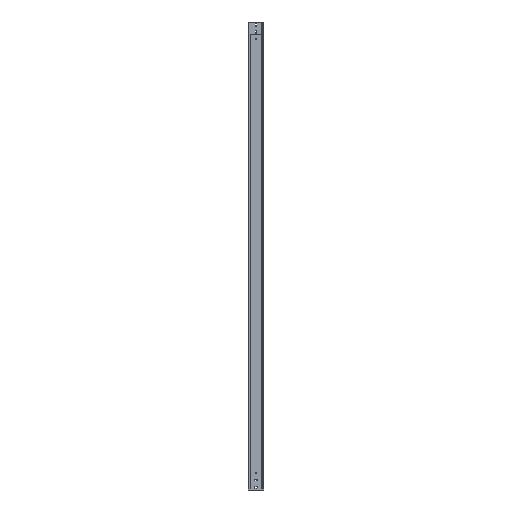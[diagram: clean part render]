
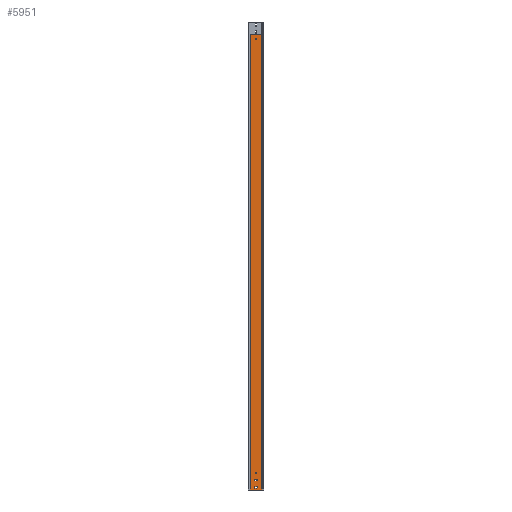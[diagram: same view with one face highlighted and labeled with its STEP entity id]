
A CAD part, left-side view. The second image highlights one B-rep face of the part: STEP entity #5951.
In plain terms, the highlighted planar face has unit normal (-1, 0, 0).
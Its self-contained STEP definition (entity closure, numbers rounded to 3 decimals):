
#49 = DIRECTION ( 'NONE',  ( 0., 0., -1. ) ) ;
#63 = CIRCLE ( 'NONE', #269, 4.5 ) ;
#77 = EDGE_CURVE ( 'NONE', #5470, #4235, #3440, .T. ) ;
#166 = CARTESIAN_POINT ( 'NONE',  ( 0., 42.5, 2852.5 ) ) ;
#198 = CIRCLE ( 'NONE', #1037, 4.5 ) ;
#212 = EDGE_CURVE ( 'NONE', #704, #6250, #63, .T. ) ;
#229 = DIRECTION ( 'NONE',  ( 0., 1., 0. ) ) ;
#232 = CARTESIAN_POINT ( 'NONE',  ( 0., 84.666, 0. ) ) ;
#234 = CARTESIAN_POINT ( 'NONE',  ( 0., 53.5, 2852.5 ) ) ;
#269 = AXIS2_PLACEMENT_3D ( 'NONE', #1083, #1545, #5002 ) ;
#271 = CARTESIAN_POINT ( 'NONE',  ( 0., 63.624, 0. ) ) ;
#364 = FACE_BOUND ( 'NONE', #2215, .T. ) ;
#418 = VECTOR ( 'NONE', #1915, 1000. ) ;
#445 = VERTEX_POINT ( 'NONE', #234 ) ;
#490 = CARTESIAN_POINT ( 'NONE',  ( 0., 42.5, 2857. ) ) ;
#502 = EDGE_CURVE ( 'NONE', #445, #4900, #2761, .T. ) ;
#510 = ORIENTED_EDGE ( 'NONE', *, *, #6026, .T. ) ;
#581 = ORIENTED_EDGE ( 'NONE', *, *, #5462, .F. ) ;
#586 = VECTOR ( 'NONE', #229, 1000. ) ;
#608 = CARTESIAN_POINT ( 'NONE',  ( 0., 42.5, 2861.5 ) ) ;
#620 = CARTESIAN_POINT ( 'NONE',  ( 0., 53.5, 2852.5 ) ) ;
#630 = ORIENTED_EDGE ( 'NONE', *, *, #77, .F. ) ;
#704 = VERTEX_POINT ( 'NONE', #1409 ) ;
#758 = FACE_BOUND ( 'NONE', #1331, .T. ) ;
#835 = CARTESIAN_POINT ( 'NONE',  ( 0., 42.582, 0. ) ) ;
#1037 = AXIS2_PLACEMENT_3D ( 'NONE', #1152, #2764, #6384 ) ;
#1076 = EDGE_CURVE ( 'NONE', #2183, #5057, #2885, .T. ) ;
#1083 = CARTESIAN_POINT ( 'NONE',  ( 0., 48., 2810. ) ) ;
#1152 = CARTESIAN_POINT ( 'NONE',  ( 0., 42.5, 2903. ) ) ;
#1275 = EDGE_LOOP ( 'NONE', ( #4785, #5664, #2341, #5275 ) ) ;
#1331 = EDGE_LOOP ( 'NONE', ( #3090, #5724 ) ) ;
#1347 = CARTESIAN_POINT ( 'NONE',  ( 0., 0.5, 0. ) ) ;
#1368 = ORIENTED_EDGE ( 'NONE', *, *, #4456, .F. ) ;
#1376 = CARTESIAN_POINT ( 'NONE',  ( 0., 53.5, 2903. ) ) ;
#1409 = CARTESIAN_POINT ( 'NONE',  ( 0., 48., 2814.5 ) ) ;
#1464 = DIRECTION ( 'NONE',  ( 0., 0., 1. ) ) ;
#1485 = CARTESIAN_POINT ( 'NONE',  ( 0., 42.5, 2898.5 ) ) ;
#1517 = CARTESIAN_POINT ( 'NONE',  ( 0., 53.5, 2861.5 ) ) ;
#1545 = DIRECTION ( 'NONE',  ( -1., 0., 0. ) ) ;
#1559 = VECTOR ( 'NONE', #4318, 1000. ) ;
#1642 = CARTESIAN_POINT ( 'NONE',  ( 0., 0.5, 2920. ) ) ;
#1697 = LINE ( 'NONE', #6265, #586 ) ;
#1817 = FACE_BOUND ( 'NONE', #2320, .T. ) ;
#1915 = DIRECTION ( 'NONE',  ( 0., -1., 0. ) ) ;
#1933 = VECTOR ( 'NONE', #49, 1000. ) ;
#1971 = CIRCLE ( 'NONE', #3245, 4.5 ) ;
#1999 = VERTEX_POINT ( 'NONE', #4427 ) ;
#2009 = DIRECTION ( 'NONE',  ( 0., 0., 1. ) ) ;
#2032 = LINE ( 'NONE', #4538, #2543 ) ;
#2113 = EDGE_CURVE ( 'NONE', #1999, #4995, #5337, .T. ) ;
#2115 = CIRCLE ( 'NONE', #6098, 4.5 ) ;
#2183 = VERTEX_POINT ( 'NONE', #4579 ) ;
#2215 = EDGE_LOOP ( 'NONE', ( #2739, #4475, #3355, #630 ) ) ;
#2320 = EDGE_LOOP ( 'NONE', ( #5931, #581 ) ) ;
#2335 = CARTESIAN_POINT ( 'NONE',  ( 0., 77.652, 0. ) ) ;
#2341 = ORIENTED_EDGE ( 'NONE', *, *, #4750, .F. ) ;
#2369 = DIRECTION ( 'NONE',  ( -1., 0., 0. ) ) ;
#2405 = CARTESIAN_POINT ( 'NONE',  ( 0., 53.5, 2898.5 ) ) ;
#2493 = B_SPLINE_CURVE_WITH_KNOTS ( 'NONE', 3,
 ( #1347, #5814, #6280, #835, #271, #2335, #4284 ),
 .UNSPECIFIED., .F., .F.,
 ( 4, 1, 1, 1, 4 ),
 ( 0., 0.25, 0.5, 0.75, 1. ),
 .UNSPECIFIED. ) ;
#2543 = VECTOR ( 'NONE', #6035, 1000. ) ;
#2568 = VERTEX_POINT ( 'NONE', #5602 ) ;
#2739 = ORIENTED_EDGE ( 'NONE', *, *, #5148, .F. ) ;
#2761 = LINE ( 'NONE', #620, #3850 ) ;
#2763 = CARTESIAN_POINT ( 'NONE',  ( 0., 53.5, 2907.5 ) ) ;
#2764 = DIRECTION ( 'NONE',  ( -1., 0., 0. ) ) ;
#2765 = FACE_BOUND ( 'NONE', #1275, .T. ) ;
#2795 = CIRCLE ( 'NONE', #4478, 4.5 ) ;
#2885 = CIRCLE ( 'NONE', #3101, 4.5 ) ;
#2931 = VERTEX_POINT ( 'NONE', #5227 ) ;
#2965 = EDGE_LOOP ( 'NONE', ( #4890, #1368, #510, #3913 ) ) ;
#3049 = CIRCLE ( 'NONE', #3259, 4.5 ) ;
#3090 = ORIENTED_EDGE ( 'NONE', *, *, #1076, .F. ) ;
#3101 = AXIS2_PLACEMENT_3D ( 'NONE', #5928, #4362, #6361 ) ;
#3245 = AXIS2_PLACEMENT_3D ( 'NONE', #3718, #6260, #5430 ) ;
#3259 = AXIS2_PLACEMENT_3D ( 'NONE', #5098, #4608, #4150 ) ;
#3268 = DIRECTION ( 'NONE',  ( 0., -1., 0. ) ) ;
#3324 = CARTESIAN_POINT ( 'NONE',  ( 0., 48., 34.5 ) ) ;
#3355 = ORIENTED_EDGE ( 'NONE', *, *, #4461, .F. ) ;
#3377 = CARTESIAN_POINT ( 'NONE',  ( 0., 53.5, 2898.5 ) ) ;
#3440 = LINE ( 'NONE', #2405, #418 ) ;
#3561 = VERTEX_POINT ( 'NONE', #2763 ) ;
#3631 = LINE ( 'NONE', #1642, #6499 ) ;
#3667 = DIRECTION ( 'NONE',  ( 0., 0., -1. ) ) ;
#3683 = CARTESIAN_POINT ( 'NONE',  ( 0., 0.5, 2920. ) ) ;
#3718 = CARTESIAN_POINT ( 'NONE',  ( 0., 48., 2810. ) ) ;
#3815 = EDGE_CURVE ( 'NONE', #5057, #2183, #2795, .T. ) ;
#3828 = DIRECTION ( 'NONE',  ( 0., 0., 1. ) ) ;
#3850 = VECTOR ( 'NONE', #3268, 1000. ) ;
#3913 = ORIENTED_EDGE ( 'NONE', *, *, #2113, .T. ) ;
#3920 = DIRECTION ( 'NONE',  ( 0., 0., -1. ) ) ;
#3977 = CARTESIAN_POINT ( 'NONE',  ( 0., 48., 30. ) ) ;
#3983 = DIRECTION ( 'NONE',  ( -1., 0., 0. ) ) ;
#4124 = VERTEX_POINT ( 'NONE', #1517 ) ;
#4150 = DIRECTION ( 'NONE',  ( 0., 0., -1. ) ) ;
#4235 = VERTEX_POINT ( 'NONE', #1485 ) ;
#4284 = CARTESIAN_POINT ( 'NONE',  ( 0., 84.666, 0. ) ) ;
#4303 = CARTESIAN_POINT ( 'NONE',  ( 0., 48., 2805.5 ) ) ;
#4318 = DIRECTION ( 'NONE',  ( 0., 1., 0. ) ) ;
#4362 = DIRECTION ( 'NONE',  ( -1., 0., 0. ) ) ;
#4427 = CARTESIAN_POINT ( 'NONE',  ( 0., 84.666, 2920. ) ) ;
#4456 = EDGE_CURVE ( 'NONE', #6441, #2931, #3631, .T. ) ;
#4461 = EDGE_CURVE ( 'NONE', #4235, #2568, #198, .T. ) ;
#4475 = ORIENTED_EDGE ( 'NONE', *, *, #4706, .F. ) ;
#4478 = AXIS2_PLACEMENT_3D ( 'NONE', #3977, #5961, #1464 ) ;
#4510 = DIRECTION ( 'NONE',  ( -1., 0., 0. ) ) ;
#4538 = CARTESIAN_POINT ( 'NONE',  ( 0., 53.5, 2907.5 ) ) ;
#4569 = EDGE_CURVE ( 'NONE', #5412, #4124, #6244, .T. ) ;
#4579 = CARTESIAN_POINT ( 'NONE',  ( 0., 48., 25.5 ) ) ;
#4608 = DIRECTION ( 'NONE',  ( -1., 0., 0. ) ) ;
#4706 = EDGE_CURVE ( 'NONE', #2568, #3561, #2032, .T. ) ;
#4750 = EDGE_CURVE ( 'NONE', #4900, #5412, #2115, .T. ) ;
#4775 = FACE_OUTER_BOUND ( 'NONE', #2965, .T. ) ;
#4785 = ORIENTED_EDGE ( 'NONE', *, *, #5897, .F. ) ;
#4843 = CARTESIAN_POINT ( 'NONE',  ( 0., 53.5, 2861.5 ) ) ;
#4872 = CARTESIAN_POINT ( 'NONE',  ( 0., 0., 2920. ) ) ;
#4890 = ORIENTED_EDGE ( 'NONE', *, *, #5957, .F. ) ;
#4900 = VERTEX_POINT ( 'NONE', #166 ) ;
#4995 = VERTEX_POINT ( 'NONE', #232 ) ;
#5002 = DIRECTION ( 'NONE',  ( 0., 0., 1. ) ) ;
#5057 = VERTEX_POINT ( 'NONE', #3324 ) ;
#5071 = CARTESIAN_POINT ( 'NONE',  ( 0., 84.666, 2920. ) ) ;
#5098 = CARTESIAN_POINT ( 'NONE',  ( 0., 53.5, 2857. ) ) ;
#5148 = EDGE_CURVE ( 'NONE', #3561, #5470, #5212, .T. ) ;
#5212 = CIRCLE ( 'NONE', #6268, 4.5 ) ;
#5227 = CARTESIAN_POINT ( 'NONE',  ( 0., 0.5, 0. ) ) ;
#5275 = ORIENTED_EDGE ( 'NONE', *, *, #502, .F. ) ;
#5337 = LINE ( 'NONE', #5071, #1933 ) ;
#5361 = PLANE ( 'NONE',  #5620 ) ;
#5412 = VERTEX_POINT ( 'NONE', #608 ) ;
#5430 = DIRECTION ( 'NONE',  ( 0., 0., 1. ) ) ;
#5462 = EDGE_CURVE ( 'NONE', #6250, #704, #1971, .T. ) ;
#5470 = VERTEX_POINT ( 'NONE', #3377 ) ;
#5602 = CARTESIAN_POINT ( 'NONE',  ( 0., 42.5, 2907.5 ) ) ;
#5620 = AXIS2_PLACEMENT_3D ( 'NONE', #4872, #2369, #3828 ) ;
#5664 = ORIENTED_EDGE ( 'NONE', *, *, #4569, .F. ) ;
#5724 = ORIENTED_EDGE ( 'NONE', *, *, #3815, .F. ) ;
#5814 = CARTESIAN_POINT ( 'NONE',  ( 0., 7.513, 0. ) ) ;
#5897 = EDGE_CURVE ( 'NONE', #4124, #445, #3049, .T. ) ;
#5928 = CARTESIAN_POINT ( 'NONE',  ( 0., 48., 30. ) ) ;
#5931 = ORIENTED_EDGE ( 'NONE', *, *, #212, .F. ) ;
#5951 = ADVANCED_FACE ( 'NONE', ( #758, #1817, #2765, #364, #4775 ), #5361, .T. ) ;
#5957 = EDGE_CURVE ( 'NONE', #2931, #4995, #2493, .T. ) ;
#5961 = DIRECTION ( 'NONE',  ( -1., 0., 0. ) ) ;
#6026 = EDGE_CURVE ( 'NONE', #6441, #1999, #1697, .T. ) ;
#6035 = DIRECTION ( 'NONE',  ( 0., 1., 0. ) ) ;
#6098 = AXIS2_PLACEMENT_3D ( 'NONE', #490, #4510, #2009 ) ;
#6244 = LINE ( 'NONE', #4843, #1559 ) ;
#6250 = VERTEX_POINT ( 'NONE', #4303 ) ;
#6260 = DIRECTION ( 'NONE',  ( -1., 0., 0. ) ) ;
#6265 = CARTESIAN_POINT ( 'NONE',  ( 0., 0., 2920. ) ) ;
#6268 = AXIS2_PLACEMENT_3D ( 'NONE', #1376, #3983, #3920 ) ;
#6280 = CARTESIAN_POINT ( 'NONE',  ( 0., 21.54, 0. ) ) ;
#6361 = DIRECTION ( 'NONE',  ( 0., 0., 1. ) ) ;
#6384 = DIRECTION ( 'NONE',  ( 0., 0., 1. ) ) ;
#6441 = VERTEX_POINT ( 'NONE', #3683 ) ;
#6499 = VECTOR ( 'NONE', #3667, 1000. ) ;
